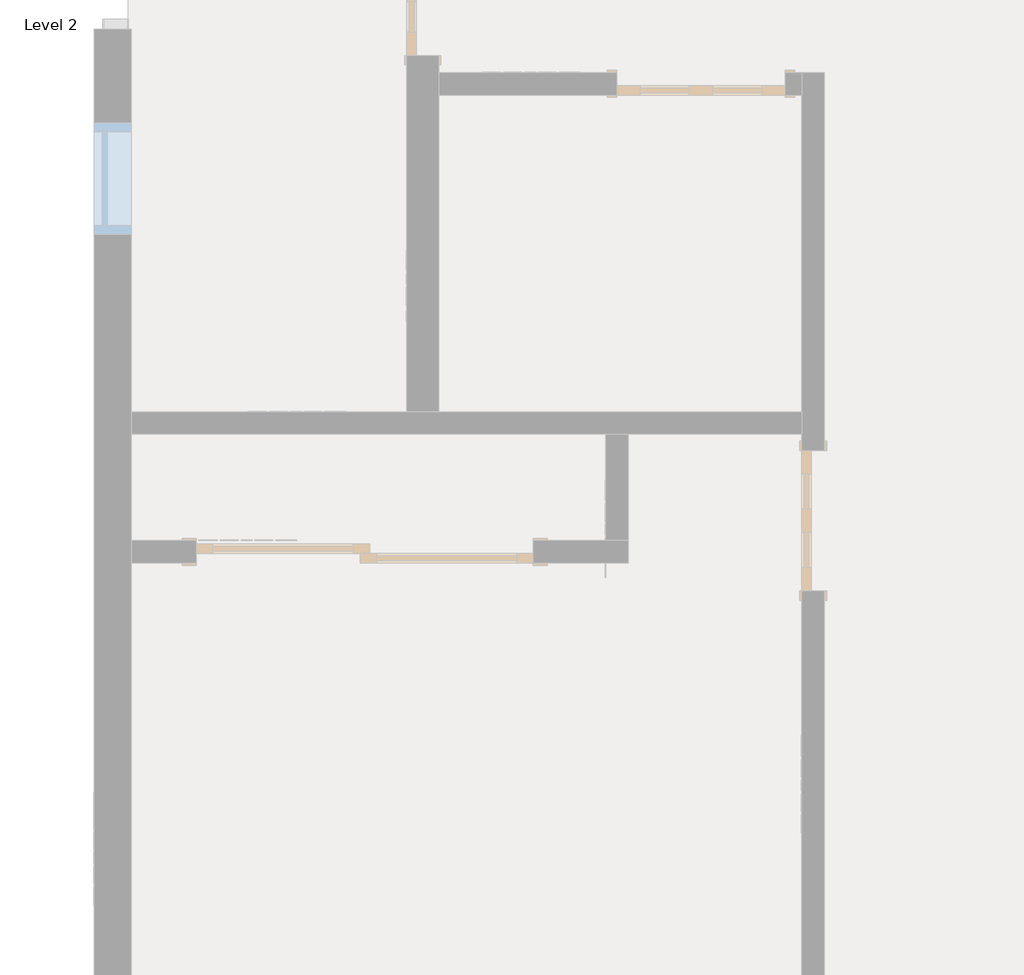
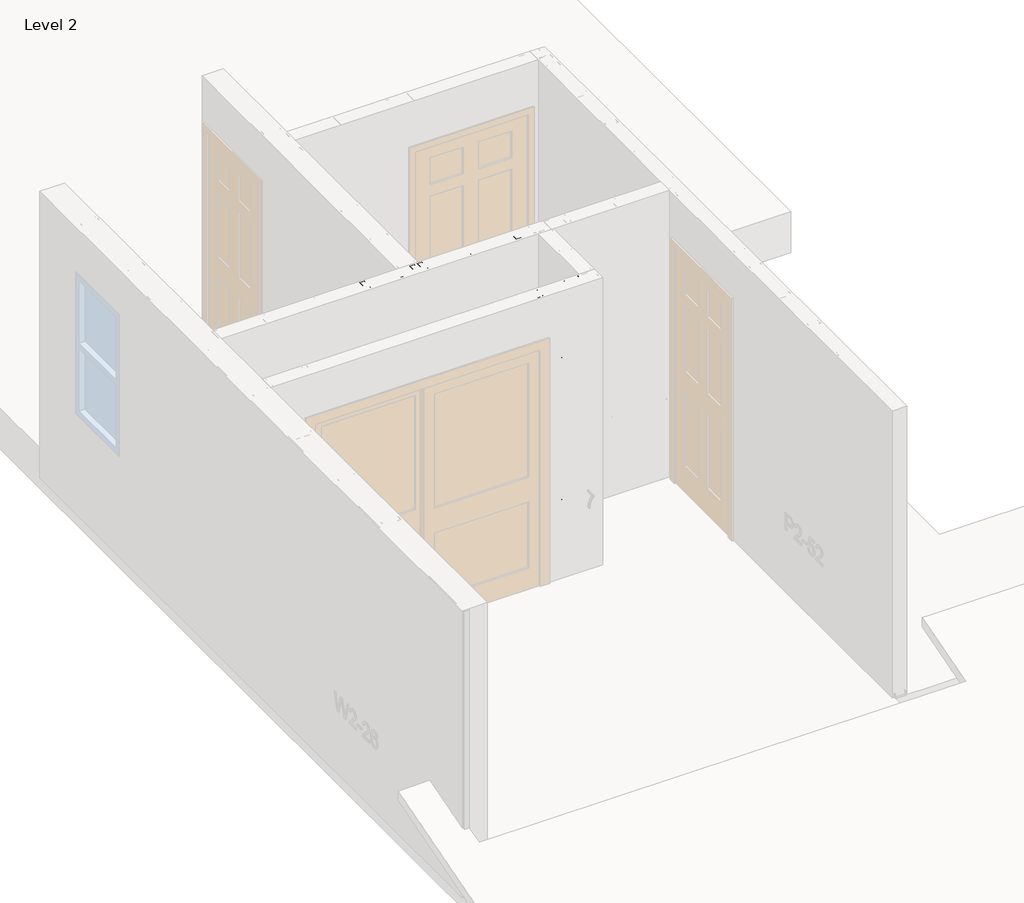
# One storey, part 9 of 46: 9 columns, 1 beam.
"""IFC4 building model written with IfcOpenShell, lengths in millimetres."""

from ifc_helpers import new_model, si_unit, point, frame, origin, place, context, project, spatial, circle_curve, ellipse_curve, trimmed, transform, mapped, element, save
from ifc_brep_helpers import plane_surface, extruded_surface, advanced_brep
from components import beam_350nf150_33_06793d65, column_350nf150_33_a93e9d8a

model = new_model("IFC4")

# Units and contexts
model_context = context("Model", 3, world=origin())
ifc_project = project(units=[si_unit("LENGTHUNIT", "METRE", prefix="MILLI")], contexts=[model_context])

# Site, building, storey
site = spatial("IfcSite", under=ifc_project)
building = spatial("IfcBuilding", under=site)
storey = spatial("IfcBuildingStorey", under=building, Name="Level 2", Elevation=3060.7)

# Beam
placement = place(None, origin())
beam_350nf150_33_shape = beam_350nf150_33_06793d65(model_context)
element("IfcBeam", 1, ObjectType="BIMSF-SSMA-S : 350NF150-33", at=placement, inside=storey, context=model_context, shape_type="MappedRepresentation", body=[
    mapped(beam_350nf150_33_shape, transform((-12722.3538349, 5070.602221, 3076.575), x_axis=(1.0000000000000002, 0.0, 0.0), y_axis=(0.0, 0.0, -1.0000000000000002), z_axis=(0.0, 1.0000000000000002, 0.0))),
])

# Columns
element("IfcColumn", 2, ObjectType="BIMSF-SSMA-S-Column : 350NF150-33", at=placement, inside=storey, context=model_context, shape_type="AdvancedBrep", body=[
    advanced_brep(
    [(-12517.5663349, 5115.052221, 3061.5929687), (-12517.5663349, 5026.152221, 3061.5929687), (-12555.6663349, 5026.152221, 3061.5929687), (-12555.6663349, 5031.8097367, 3061.5929687), (-12554.7840191, 5031.8097367, 3061.5929687), (-12554.7840191, 5027.0345367, 3061.5929687), (-12518.4486507, 5027.0345367, 3061.5929687), (-12518.4486507, 5114.1699052, 3061.5929687), (-12554.7840191, 5114.1699052, 3061.5929687), (-12554.7840191, 5109.3947052, 3061.5929687), (-12555.6663349, 5109.3947052, 3061.5929687), (-12555.6663349, 5115.052221, 3061.5929687), (-12517.5663349, 5115.052221, 5523.6070313), (-12517.5663349, 5026.152221, 5523.6070313), (-12517.5663349, 5057.902221, 3671.1929687), (-12517.5663349, 5083.302221, 3671.1929687), (-12517.5663349, 5057.902221, 4890.3929688), (-12517.5663349, 5083.302221, 4890.3929688), (-12555.6663349, 5026.152221, 5523.6070313), (-12555.6663349, 5031.8097367, 5523.6070313), (-12554.7840191, 5031.8097367, 5523.6070313), (-12554.7840191, 5027.0345367, 5523.6070313), (-12518.4486507, 5027.0345367, 5523.6070313), (-12518.4486507, 5114.1699052, 5523.6070313), (-12518.4486507, 5083.302221, 3671.1929687), (-12518.4486507, 5057.902221, 3671.1929687), (-12518.4486507, 5083.302221, 4890.3929688), (-12518.4486507, 5057.902221, 4890.3929688), (-12554.7840191, 5114.1699052, 5523.6070313), (-12554.7840191, 5109.3947052, 5523.6070313), (-12555.6663349, 5109.3947052, 5523.6070313), (-12555.6663349, 5115.052221, 5523.6070313)],
    [
        (0, 1),
        (1, 2),
        (2, 3),
        (3, 4),
        (4, 5),
        (5, 6),
        (6, 7),
        (7, 8),
        (8, 9),
        (9, 10),
        (10, 11),
        (11, 0),
        (0, 12),
        (12, 13),
        (13, 1),
        (14, 15, circle_curve(frame((-12517.5663349, 5070.602221, 3671.1929687), z_axis=(-1.0, 0.0, 0.0), x_axis=(0.0, -1.0, 0.0)), 12.7)),
        (15, 14, circle_curve(frame((-12517.5663349, 5070.602221, 3671.1929687), z_axis=(-1.0, 0.0, 0.0), x_axis=(0.0, -1.0, 0.0)), 12.7)),
        (16, 17, circle_curve(frame((-12517.5663349, 5070.602221, 4890.3929687), z_axis=(-1.0, 0.0, 0.0), x_axis=(0.0, -1.0, 0.0)), 12.7)),
        (17, 16, circle_curve(frame((-12517.5663349, 5070.602221, 4890.3929687), z_axis=(-1.0, 0.0, 0.0), x_axis=(0.0, -1.0, 0.0)), 12.7)),
        (13, 18),
        (18, 2),
        (18, 19),
        (19, 3),
        (19, 20),
        (20, 4),
        (20, 21),
        (21, 5),
        (21, 22),
        (22, 6),
        (22, 23),
        (23, 7),
        (24, 25, circle_curve(frame((-12518.4486507, 5070.602221, 3671.1929688), z_axis=(1.0, 0.0, 0.0), x_axis=(0.0, -1.0, 0.0)), 12.7)),
        (25, 24, circle_curve(frame((-12518.4486507, 5070.602221, 3671.1929688), z_axis=(1.0, 0.0, 0.0), x_axis=(0.0, -1.0, 0.0)), 12.7)),
        (26, 27, circle_curve(frame((-12518.4486507, 5070.602221, 4890.3929687), z_axis=(1.0, 0.0, 0.0), x_axis=(0.0, -1.0, 0.0)), 12.7)),
        (27, 26, circle_curve(frame((-12518.4486507, 5070.602221, 4890.3929687), z_axis=(1.0, 0.0, 0.0), x_axis=(0.0, -1.0, 0.0)), 12.7)),
        (23, 28),
        (28, 8),
        (28, 29),
        (29, 9),
        (29, 30),
        (30, 10),
        (30, 31),
        (31, 11),
        (31, 12),
        (24, 15),
        (14, 25),
        (26, 17),
        (16, 27),
    ],
    [
        plane_surface(frame((-12517.5663349, 5115.052221, 3061.5929687), z_axis=(0.0, 0.0, -1.0), x_axis=(1.0, 0.0, 0.0))),
        plane_surface(frame((-12517.5663349, 5026.152221, 5523.6070313), z_axis=(1.0, 0.0, 0.0), x_axis=(0.0, 0.0, -1.0))),
        plane_surface(frame((-12555.6663349, 5026.152221, 5523.6070313), z_axis=(0.0, -1.0, 0.0), x_axis=(0.0, 0.0, -1.0))),
        plane_surface(frame((-12555.6663349, 5031.8097367, 5523.6070313), z_axis=(-1.0, 0.0, 0.0), x_axis=(0.0, 0.0, -1.0))),
        plane_surface(frame((-12554.7840191, 5031.8097367, 5523.6070313), z_axis=(0.0, 1.0, 0.0), x_axis=(0.0, 0.0, -1.0))),
        plane_surface(frame((-12554.7840191, 5027.0345367, 5523.6070313), z_axis=(1.0, 0.0, 0.0), x_axis=(0.0, 0.0, -1.0))),
        plane_surface(frame((-12518.4486507, 5027.0345367, 5523.6070313), z_axis=(0.0, 1.0, 0.0), x_axis=(0.0, 0.0, -1.0))),
        plane_surface(frame((-12518.4486507, 5114.1699052, 5523.6070313), z_axis=(-1.0, 0.0, 0.0), x_axis=(0.0, 0.0, -1.0))),
        plane_surface(frame((-12554.7840191, 5114.1699052, 5523.6070313), z_axis=(0.0, -1.0, 0.0), x_axis=(0.0, 0.0, -1.0))),
        plane_surface(frame((-12554.7840191, 5109.3947052, 5523.6070313), z_axis=(1.0, 0.0, 0.0), x_axis=(0.0, 0.0, -1.0))),
        plane_surface(frame((-12555.6663349, 5109.3947052, 5523.6070313), z_axis=(0.0, -1.0, 0.0), x_axis=(0.0, 0.0, -1.0))),
        plane_surface(frame((-12555.6663349, 5115.052221, 5523.6070313), z_axis=(-1.0, 0.0, 0.0), x_axis=(0.0, 0.0, -1.0))),
        plane_surface(frame((-12517.5663349, 5115.052221, 5523.6070313), z_axis=(0.0, 1.0, 0.0), x_axis=(0.0, 0.0, -1.0))),
        plane_surface(frame((-12517.5663349, 5115.052221, 5523.6070313), z_axis=(0.0, 0.0, 1.0), x_axis=(-1.0, 0.0, 0.0))),
        extruded_surface(trimmed(ellipse_curve(frame((-14998.6303974, 5070.602221, 3671.1929688), z_axis=(1.0, 0.0, 0.0), x_axis=(0.0, -1.0, 0.0)), 12.7, 12.7), [point((-14998.6303974, 5083.302221, 3671.1929688))], [point((-14998.6303974, 5057.902221, 3671.1929688))], True, "CARTESIAN"), (-4924.028125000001, 0.0, 0.0), 4924.028125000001),
        extruded_surface(trimmed(ellipse_curve(frame((-14998.6303974, 5070.602221, 3671.1929688), z_axis=(1.0, 0.0, 0.0), x_axis=(0.0, -1.0, 0.0)), 12.7, 12.7), [point((-14998.6303974, 5057.902221, 3671.1929688))], [point((-14998.6303974, 5083.302221, 3671.1929688))], True, "CARTESIAN"), (-4924.028125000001, 0.0, 0.0), 4924.028125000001),
        extruded_surface(trimmed(ellipse_curve(frame((-14998.6303974, 5070.602221, 4890.3929687), z_axis=(1.0, 0.0, 0.0), x_axis=(0.0, -1.0, 0.0)), 12.7, 12.7), [point((-14998.6303974, 5083.302221, 4890.3929687))], [point((-14998.6303974, 5057.902221, 4890.3929687))], True, "CARTESIAN"), (-4924.028125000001, 0.0, 0.0), 4924.028125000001),
        extruded_surface(trimmed(ellipse_curve(frame((-14998.6303974, 5070.602221, 4890.3929687), z_axis=(1.0, 0.0, 0.0), x_axis=(0.0, -1.0, 0.0)), 12.7, 12.7), [point((-14998.6303974, 5057.902221, 4890.3929687))], [point((-14998.6303974, 5083.302221, 4890.3929687))], True, "CARTESIAN"), (-4924.028125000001, 0.0, 0.0), 4924.028125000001),
    ],
    [
        (0, [[1, 2, 3, 4, 5, 6, 7, 8, 9, 10, 11, 12]]),
        (1, [[-1, 13, 14, 15], [16, 17], [18, 19]]),
        (2, [[-2, -15, 20, 21]]),
        (3, [[-3, -21, 22, 23]]),
        (4, [[-4, -23, 24, 25]]),
        (5, [[-5, -25, 26, 27]]),
        (6, [[-6, -27, 28, 29]]),
        (7, [[-7, -29, 30, 31], [32, 33], [34, 35]]),
        (8, [[-8, -31, 36, 37]]),
        (9, [[-9, -37, 38, 39]]),
        (10, [[-10, -39, 40, 41]]),
        (11, [[-11, -41, 42, 43]]),
        (12, [[-12, -43, 44, -13]]),
        (13, [[-14, -44, -42, -40, -38, -36, -30, -28, -26, -24, -22, -20]]),
        (14, [[45, -16, 46, -32]]),
        (15, [[-45, -33, -46, -17]]),
        (16, [[47, -18, 48, -34]]),
        (17, [[-47, -35, -48, -19]]),
    ],
),
])
element("IfcColumn", 3, ObjectType="BIMSF-SSMA-S-Column : 350NF150-33", at=placement, inside=storey, context=model_context, shape_type="AdvancedBrep", body=[
    advanced_brep(
    [(-12704.8913349, 5026.152221, 3061.5929687), (-12704.8913349, 5115.052221, 3061.5929687), (-12666.7913349, 5115.052221, 3061.5929687), (-12666.7913349, 5109.3947052, 3061.5929687), (-12667.6736507, 5109.3947052, 3061.5929687), (-12667.6736507, 5114.1699052, 3061.5929687), (-12704.0090191, 5114.1699052, 3061.5929687), (-12704.0090191, 5027.0345367, 3061.5929687), (-12667.6736507, 5027.0345367, 3061.5929687), (-12667.6736507, 5031.8097367, 3061.5929687), (-12666.7913349, 5031.8097367, 3061.5929687), (-12666.7913349, 5026.152221, 3061.5929687), (-12704.8913349, 5026.152221, 5523.6070313), (-12704.8913349, 5115.052221, 5523.6070313), (-12704.8913349, 5083.302221, 3671.1929688), (-12704.8913349, 5057.902221, 3671.1929688), (-12704.8913349, 5083.302221, 4890.3929687), (-12704.8913349, 5057.902221, 4890.3929687), (-12666.7913349, 5115.052221, 5523.6070313), (-12666.7913349, 5109.3947052, 5523.6070313), (-12667.6736507, 5109.3947052, 5523.6070313), (-12667.6736507, 5114.1699052, 5523.6070313), (-12704.0090191, 5114.1699052, 5523.6070313), (-12704.0090191, 5027.0345367, 5523.6070313), (-12704.0090191, 5057.902221, 3671.1929688), (-12704.0090191, 5083.302221, 3671.1929688), (-12704.0090191, 5057.902221, 4890.3929687), (-12704.0090191, 5083.302221, 4890.3929687), (-12667.6736507, 5027.0345367, 5523.6070313), (-12667.6736507, 5031.8097367, 5523.6070313), (-12666.7913349, 5031.8097367, 5523.6070313), (-12666.7913349, 5026.152221, 5523.6070313)],
    [
        (0, 1),
        (1, 2),
        (2, 3),
        (3, 4),
        (4, 5),
        (5, 6),
        (6, 7),
        (7, 8),
        (8, 9),
        (9, 10),
        (10, 11),
        (11, 0),
        (0, 12),
        (12, 13),
        (13, 1),
        (14, 15, circle_curve(frame((-12704.8913349, 5070.602221, 3671.1929687), z_axis=(1.0, 0.0, 0.0), x_axis=(0.0, 1.0, 0.0)), 12.7)),
        (15, 14, circle_curve(frame((-12704.8913349, 5070.602221, 3671.1929687), z_axis=(1.0, 0.0, 0.0), x_axis=(0.0, 1.0, 0.0)), 12.7)),
        (16, 17, circle_curve(frame((-12704.8913349, 5070.602221, 4890.3929687), z_axis=(1.0, 0.0, 0.0), x_axis=(0.0, 1.0, 0.0)), 12.7)),
        (17, 16, circle_curve(frame((-12704.8913349, 5070.602221, 4890.3929687), z_axis=(1.0, 0.0, 0.0), x_axis=(0.0, 1.0, 0.0)), 12.7)),
        (13, 18),
        (18, 2),
        (18, 19),
        (19, 3),
        (19, 20),
        (20, 4),
        (20, 21),
        (21, 5),
        (21, 22),
        (22, 6),
        (22, 23),
        (23, 7),
        (24, 25, circle_curve(frame((-12704.0090191, 5070.602221, 3671.1929688), z_axis=(-1.0, 0.0, 0.0), x_axis=(0.0, 1.0, 0.0)), 12.7)),
        (25, 24, circle_curve(frame((-12704.0090191, 5070.602221, 3671.1929688), z_axis=(-1.0, 0.0, 0.0), x_axis=(0.0, 1.0, 0.0)), 12.7)),
        (26, 27, circle_curve(frame((-12704.0090191, 5070.602221, 4890.3929687), z_axis=(-1.0, 0.0, 0.0), x_axis=(0.0, 1.0, 0.0)), 12.7)),
        (27, 26, circle_curve(frame((-12704.0090191, 5070.602221, 4890.3929687), z_axis=(-1.0, 0.0, 0.0), x_axis=(0.0, 1.0, 0.0)), 12.7)),
        (23, 28),
        (28, 8),
        (28, 29),
        (29, 9),
        (29, 30),
        (30, 10),
        (30, 31),
        (31, 11),
        (31, 12),
        (24, 15),
        (14, 25),
        (26, 17),
        (16, 27),
    ],
    [
        plane_surface(frame((-12704.8913349, 5026.152221, 3061.5929687), z_axis=(0.0, 0.0, -1.0), x_axis=(-1.0, 0.0, 0.0))),
        plane_surface(frame((-12704.8913349, 5115.052221, 5523.6070313), z_axis=(-1.0, 0.0, 0.0), x_axis=(0.0, 0.0, -1.0))),
        plane_surface(frame((-12666.7913349, 5115.052221, 5523.6070313), z_axis=(0.0, 1.0, 0.0), x_axis=(0.0, 0.0, -1.0))),
        plane_surface(frame((-12666.7913349, 5109.3947052, 5523.6070313), z_axis=(1.0, 0.0, 0.0), x_axis=(0.0, 0.0, -1.0))),
        plane_surface(frame((-12667.6736507, 5109.3947052, 5523.6070313), z_axis=(0.0, -1.0, 0.0), x_axis=(0.0, 0.0, -1.0))),
        plane_surface(frame((-12667.6736507, 5114.1699052, 5523.6070313), z_axis=(-1.0, 0.0, 0.0), x_axis=(0.0, 0.0, -1.0))),
        plane_surface(frame((-12704.0090191, 5114.1699052, 5523.6070313), z_axis=(0.0, -1.0, 0.0), x_axis=(0.0, 0.0, -1.0))),
        plane_surface(frame((-12704.0090191, 5027.0345367, 5523.6070313), z_axis=(1.0, 0.0, 0.0), x_axis=(0.0, 0.0, -1.0))),
        plane_surface(frame((-12667.6736507, 5027.0345367, 5523.6070313), z_axis=(0.0, 1.0, 0.0), x_axis=(0.0, 0.0, -1.0))),
        plane_surface(frame((-12667.6736507, 5031.8097367, 5523.6070313), z_axis=(-1.0, 0.0, 0.0), x_axis=(0.0, 0.0, -1.0))),
        plane_surface(frame((-12666.7913349, 5031.8097367, 5523.6070313), z_axis=(0.0, 1.0, 0.0), x_axis=(0.0, 0.0, -1.0))),
        plane_surface(frame((-12666.7913349, 5026.152221, 5523.6070313), z_axis=(1.0, 0.0, 0.0), x_axis=(0.0, 0.0, -1.0))),
        plane_surface(frame((-12704.8913349, 5026.152221, 5523.6070313), z_axis=(0.0, -1.0, 0.0), x_axis=(0.0, 0.0, -1.0))),
        plane_surface(frame((-12704.8913349, 5026.152221, 5523.6070313), z_axis=(0.0, 0.0, 1.0), x_axis=(1.0, 0.0, 0.0))),
        extruded_surface(trimmed(ellipse_curve(frame((-10223.8272724, 5070.602221, 3671.1929688), z_axis=(-1.0, 0.0, 0.0), x_axis=(0.0, 1.0, 0.0)), 12.7, 12.7), [point((-10223.8272724, 5057.902221, 3671.1929688))], [point((-10223.8272724, 5083.302221, 3671.1929688))], True, "CARTESIAN"), (4924.028125, 0.0, 0.0), 4924.028125),
        extruded_surface(trimmed(ellipse_curve(frame((-10223.8272724, 5070.602221, 3671.1929688), z_axis=(-1.0, 0.0, 0.0), x_axis=(0.0, 1.0, 0.0)), 12.7, 12.7), [point((-10223.8272724, 5083.302221, 3671.1929688))], [point((-10223.8272724, 5057.902221, 3671.1929688))], True, "CARTESIAN"), (4924.028125, 0.0, 0.0), 4924.028125),
        extruded_surface(trimmed(ellipse_curve(frame((-10223.8272724, 5070.602221, 4890.3929687), z_axis=(-1.0, 0.0, 0.0), x_axis=(0.0, 1.0, 0.0)), 12.7, 12.7), [point((-10223.8272724, 5057.902221, 4890.3929687))], [point((-10223.8272724, 5083.302221, 4890.3929687))], True, "CARTESIAN"), (4924.028125, 0.0, 0.0), 4924.028125),
        extruded_surface(trimmed(ellipse_curve(frame((-10223.8272724, 5070.602221, 4890.3929687), z_axis=(-1.0, 0.0, 0.0), x_axis=(0.0, 1.0, 0.0)), 12.7, 12.7), [point((-10223.8272724, 5083.302221, 4890.3929687))], [point((-10223.8272724, 5057.902221, 4890.3929687))], True, "CARTESIAN"), (4924.028125, 0.0, 0.0), 4924.028125),
    ],
    [
        (0, [[1, 2, 3, 4, 5, 6, 7, 8, 9, 10, 11, 12]]),
        (1, [[-1, 13, 14, 15], [16, 17], [18, 19]]),
        (2, [[-2, -15, 20, 21]]),
        (3, [[-3, -21, 22, 23]]),
        (4, [[-4, -23, 24, 25]]),
        (5, [[-5, -25, 26, 27]]),
        (6, [[-6, -27, 28, 29]]),
        (7, [[-7, -29, 30, 31], [32, 33], [34, 35]]),
        (8, [[-8, -31, 36, 37]]),
        (9, [[-9, -37, 38, 39]]),
        (10, [[-10, -39, 40, 41]]),
        (11, [[-11, -41, 42, 43]]),
        (12, [[-12, -43, 44, -13]]),
        (13, [[-14, -44, -42, -40, -38, -36, -30, -28, -26, -24, -22, -20]]),
        (14, [[45, -16, 46, -32]]),
        (15, [[-45, -33, -46, -17]]),
        (16, [[47, -18, 48, -34]]),
        (17, [[-47, -35, -48, -19]]),
    ],
),
])
element("IfcColumn", 4, ObjectType="BIMSF-SSMA-S-Column : 350NF150-33", at=placement, inside=storey, context=model_context, shape_type="AdvancedBrep", body=[
    advanced_brep(
    [(-13924.0913349, 5724.652221, 3061.5929687), (-13924.0913349, 5813.552221, 3061.5929687), (-13885.9913349, 5813.552221, 3061.5929687), (-13885.9913349, 5807.8947052, 3061.5929687), (-13886.8736507, 5807.8947052, 3061.5929687), (-13886.8736507, 5812.6699052, 3061.5929687), (-13923.2090191, 5812.6699052, 3061.5929687), (-13923.2090191, 5725.5345367, 3061.5929687), (-13886.8736507, 5725.5345367, 3061.5929687), (-13886.8736507, 5730.3097367, 3061.5929687), (-13885.9913349, 5730.3097367, 3061.5929687), (-13885.9913349, 5724.652221, 3061.5929687), (-13924.0913349, 5724.652221, 5523.6070313), (-13924.0913349, 5813.552221, 5523.6070313), (-13924.0913349, 5781.802221, 3671.1929688), (-13924.0913349, 5756.402221, 3671.1929688), (-13924.0913349, 5781.802221, 4890.3929687), (-13924.0913349, 5756.402221, 4890.3929687), (-13885.9913349, 5813.552221, 5523.6070313), (-13885.9913349, 5807.8947052, 5523.6070313), (-13886.8736507, 5807.8947052, 5523.6070313), (-13886.8736507, 5812.6699052, 5523.6070313), (-13923.2090191, 5812.6699052, 5523.6070313), (-13923.2090191, 5725.5345367, 5523.6070313), (-13923.2090191, 5756.402221, 3671.1929688), (-13923.2090191, 5781.802221, 3671.1929688), (-13923.2090191, 5756.402221, 4890.3929687), (-13923.2090191, 5781.802221, 4890.3929687), (-13886.8736507, 5725.5345367, 5523.6070313), (-13886.8736507, 5730.3097367, 5523.6070313), (-13885.9913349, 5730.3097367, 5523.6070313), (-13885.9913349, 5724.652221, 5523.6070313)],
    [
        (0, 1),
        (1, 2),
        (2, 3),
        (3, 4),
        (4, 5),
        (5, 6),
        (6, 7),
        (7, 8),
        (8, 9),
        (9, 10),
        (10, 11),
        (11, 0),
        (0, 12),
        (12, 13),
        (13, 1),
        (14, 15, circle_curve(frame((-13924.0913349, 5769.102221, 3671.1929687), z_axis=(1.0, 0.0, 0.0), x_axis=(0.0, 1.0, 0.0)), 12.7)),
        (15, 14, circle_curve(frame((-13924.0913349, 5769.102221, 3671.1929687), z_axis=(1.0, 0.0, 0.0), x_axis=(0.0, 1.0, 0.0)), 12.7)),
        (16, 17, circle_curve(frame((-13924.0913349, 5769.102221, 4890.3929687), z_axis=(1.0, 0.0, 0.0), x_axis=(0.0, 1.0, 0.0)), 12.7)),
        (17, 16, circle_curve(frame((-13924.0913349, 5769.102221, 4890.3929687), z_axis=(1.0, 0.0, 0.0), x_axis=(0.0, 1.0, 0.0)), 12.7)),
        (13, 18),
        (18, 2),
        (18, 19),
        (19, 3),
        (19, 20),
        (20, 4),
        (20, 21),
        (21, 5),
        (21, 22),
        (22, 6),
        (22, 23),
        (23, 7),
        (24, 25, circle_curve(frame((-13923.2090191, 5769.102221, 3671.1929688), z_axis=(-1.0, 0.0, 0.0), x_axis=(0.0, 1.0, 0.0)), 12.7)),
        (25, 24, circle_curve(frame((-13923.2090191, 5769.102221, 3671.1929688), z_axis=(-1.0, 0.0, 0.0), x_axis=(0.0, 1.0, 0.0)), 12.7)),
        (26, 27, circle_curve(frame((-13923.2090191, 5769.102221, 4890.3929687), z_axis=(-1.0, 0.0, 0.0), x_axis=(0.0, 1.0, 0.0)), 12.7)),
        (27, 26, circle_curve(frame((-13923.2090191, 5769.102221, 4890.3929687), z_axis=(-1.0, 0.0, 0.0), x_axis=(0.0, 1.0, 0.0)), 12.7)),
        (23, 28),
        (28, 8),
        (28, 29),
        (29, 9),
        (29, 30),
        (30, 10),
        (30, 31),
        (31, 11),
        (31, 12),
        (24, 15),
        (14, 25),
        (26, 17),
        (16, 27),
    ],
    [
        plane_surface(frame((-13924.0913349, 5724.652221, 3061.5929687), z_axis=(0.0, 0.0, -1.0), x_axis=(-1.0, 0.0, 0.0))),
        plane_surface(frame((-13924.0913349, 5813.552221, 5523.6070313), z_axis=(-1.0, 0.0, 0.0), x_axis=(0.0, 0.0, -1.0))),
        plane_surface(frame((-13885.9913349, 5813.552221, 5523.6070313), z_axis=(0.0, 1.0, 0.0), x_axis=(0.0, 0.0, -1.0))),
        plane_surface(frame((-13885.9913349, 5807.8947052, 5523.6070313), z_axis=(1.0, 0.0, 0.0), x_axis=(0.0, 0.0, -1.0))),
        plane_surface(frame((-13886.8736507, 5807.8947052, 5523.6070313), z_axis=(0.0, -1.0, 0.0), x_axis=(0.0, 0.0, -1.0))),
        plane_surface(frame((-13886.8736507, 5812.6699052, 5523.6070313), z_axis=(-1.0, 0.0, 0.0), x_axis=(0.0, 0.0, -1.0))),
        plane_surface(frame((-13923.2090191, 5812.6699052, 5523.6070313), z_axis=(0.0, -1.0, 0.0), x_axis=(0.0, 0.0, -1.0))),
        plane_surface(frame((-13923.2090191, 5725.5345367, 5523.6070313), z_axis=(1.0, 0.0, 0.0), x_axis=(0.0, 0.0, -1.0))),
        plane_surface(frame((-13886.8736507, 5725.5345367, 5523.6070313), z_axis=(0.0, 1.0, 0.0), x_axis=(0.0, 0.0, -1.0))),
        plane_surface(frame((-13886.8736507, 5730.3097367, 5523.6070313), z_axis=(-1.0, 0.0, 0.0), x_axis=(0.0, 0.0, -1.0))),
        plane_surface(frame((-13885.9913349, 5730.3097367, 5523.6070313), z_axis=(0.0, 1.0, 0.0), x_axis=(0.0, 0.0, -1.0))),
        plane_surface(frame((-13885.9913349, 5724.652221, 5523.6070313), z_axis=(1.0, 0.0, 0.0), x_axis=(0.0, 0.0, -1.0))),
        plane_surface(frame((-13924.0913349, 5724.652221, 5523.6070313), z_axis=(0.0, -1.0, 0.0), x_axis=(0.0, 0.0, -1.0))),
        plane_surface(frame((-13924.0913349, 5724.652221, 5523.6070313), z_axis=(0.0, 0.0, 1.0), x_axis=(1.0, 0.0, 0.0))),
        extruded_surface(trimmed(ellipse_curve(frame((-11443.0272724, 5769.102221, 3671.1929688), z_axis=(-1.0, 0.0, 0.0), x_axis=(0.0, 1.0, 0.0)), 12.7, 12.7), [point((-11443.0272724, 5756.402221, 3671.1929688))], [point((-11443.0272724, 5781.802221, 3671.1929688))], True, "CARTESIAN"), (4924.028125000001, 0.0, 0.0), 4924.028125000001),
        extruded_surface(trimmed(ellipse_curve(frame((-11443.0272724, 5769.102221, 3671.1929688), z_axis=(-1.0, 0.0, 0.0), x_axis=(0.0, 1.0, 0.0)), 12.7, 12.7), [point((-11443.0272724, 5781.802221, 3671.1929688))], [point((-11443.0272724, 5756.402221, 3671.1929688))], True, "CARTESIAN"), (4924.028125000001, 0.0, 0.0), 4924.028125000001),
        extruded_surface(trimmed(ellipse_curve(frame((-11443.0272724, 5769.102221, 4890.3929687), z_axis=(-1.0, 0.0, 0.0), x_axis=(0.0, 1.0, 0.0)), 12.7, 12.7), [point((-11443.0272724, 5756.402221, 4890.3929687))], [point((-11443.0272724, 5781.802221, 4890.3929687))], True, "CARTESIAN"), (4924.028125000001, 0.0, 0.0), 4924.028125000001),
        extruded_surface(trimmed(ellipse_curve(frame((-11443.0272724, 5769.102221, 4890.3929687), z_axis=(-1.0, 0.0, 0.0), x_axis=(0.0, 1.0, 0.0)), 12.7, 12.7), [point((-11443.0272724, 5781.802221, 4890.3929687))], [point((-11443.0272724, 5756.402221, 4890.3929687))], True, "CARTESIAN"), (4924.028125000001, 0.0, 0.0), 4924.028125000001),
    ],
    [
        (0, [[1, 2, 3, 4, 5, 6, 7, 8, 9, 10, 11, 12]]),
        (1, [[-1, 13, 14, 15], [16, 17], [18, 19]]),
        (2, [[-2, -15, 20, 21]]),
        (3, [[-3, -21, 22, 23]]),
        (4, [[-4, -23, 24, 25]]),
        (5, [[-5, -25, 26, 27]]),
        (6, [[-6, -27, 28, 29]]),
        (7, [[-7, -29, 30, 31], [32, 33], [34, 35]]),
        (8, [[-8, -31, 36, 37]]),
        (9, [[-9, -37, 38, 39]]),
        (10, [[-10, -39, 40, 41]]),
        (11, [[-11, -41, 42, 43]]),
        (12, [[-12, -43, 44, -13]]),
        (13, [[-14, -44, -42, -40, -38, -36, -30, -28, -26, -24, -22, -20]]),
        (14, [[45, -16, 46, -32]]),
        (15, [[-45, -33, -46, -17]]),
        (16, [[47, -18, 48, -34]]),
        (17, [[-47, -35, -48, -19]]),
    ],
),
])
element("IfcColumn", 5, ObjectType="BIMSF-SSMA-S-Column : 350NF150-33", at=placement, inside=storey, context=model_context, shape_type="AdvancedBrep", body=[
    advanced_brep(
    [(-13517.6913349, 5724.652221, 3061.5929687), (-13517.6913349, 5813.552221, 3061.5929687), (-13479.5913349, 5813.552221, 3061.5929687), (-13479.5913349, 5807.8947052, 3061.5929687), (-13480.4736507, 5807.8947052, 3061.5929687), (-13480.4736507, 5812.6699052, 3061.5929687), (-13516.8090191, 5812.6699052, 3061.5929687), (-13516.8090191, 5725.5345367, 3061.5929687), (-13480.4736507, 5725.5345367, 3061.5929687), (-13480.4736507, 5730.3097367, 3061.5929687), (-13479.5913349, 5730.3097367, 3061.5929687), (-13479.5913349, 5724.652221, 3061.5929687), (-13517.6913349, 5724.652221, 5523.6070313), (-13517.6913349, 5813.552221, 5523.6070313), (-13517.6913349, 5781.802221, 3671.1929688), (-13517.6913349, 5756.402221, 3671.1929688), (-13517.6913349, 5781.802221, 4890.3929687), (-13517.6913349, 5756.402221, 4890.3929687), (-13479.5913349, 5813.552221, 5523.6070313), (-13479.5913349, 5807.8947052, 5523.6070313), (-13480.4736507, 5807.8947052, 5523.6070313), (-13480.4736507, 5812.6699052, 5523.6070313), (-13516.8090191, 5812.6699052, 5523.6070313), (-13516.8090191, 5725.5345367, 5523.6070313), (-13516.8090191, 5756.402221, 3671.1929688), (-13516.8090191, 5781.802221, 3671.1929688), (-13516.8090191, 5756.402221, 4890.3929687), (-13516.8090191, 5781.802221, 4890.3929687), (-13480.4736507, 5725.5345367, 5523.6070313), (-13480.4736507, 5730.3097367, 5523.6070313), (-13479.5913349, 5730.3097367, 5523.6070313), (-13479.5913349, 5724.652221, 5523.6070313)],
    [
        (0, 1),
        (1, 2),
        (2, 3),
        (3, 4),
        (4, 5),
        (5, 6),
        (6, 7),
        (7, 8),
        (8, 9),
        (9, 10),
        (10, 11),
        (11, 0),
        (0, 12),
        (12, 13),
        (13, 1),
        (14, 15, circle_curve(frame((-13517.6913349, 5769.102221, 3671.1929688), z_axis=(1.0, 0.0, 0.0), x_axis=(0.0, 1.0, 0.0)), 12.7)),
        (15, 14, circle_curve(frame((-13517.6913349, 5769.102221, 3671.1929688), z_axis=(1.0, 0.0, 0.0), x_axis=(0.0, 1.0, 0.0)), 12.7)),
        (16, 17, circle_curve(frame((-13517.6913349, 5769.102221, 4890.3929687), z_axis=(1.0, 0.0, 0.0), x_axis=(0.0, 1.0, 0.0)), 12.7)),
        (17, 16, circle_curve(frame((-13517.6913349, 5769.102221, 4890.3929687), z_axis=(1.0, 0.0, 0.0), x_axis=(0.0, 1.0, 0.0)), 12.7)),
        (13, 18),
        (18, 2),
        (18, 19),
        (19, 3),
        (19, 20),
        (20, 4),
        (20, 21),
        (21, 5),
        (21, 22),
        (22, 6),
        (22, 23),
        (23, 7),
        (24, 25, circle_curve(frame((-13516.8090191, 5769.102221, 3671.1929688), z_axis=(-1.0, 0.0, 0.0), x_axis=(0.0, 1.0, 0.0)), 12.7)),
        (25, 24, circle_curve(frame((-13516.8090191, 5769.102221, 3671.1929688), z_axis=(-1.0, 0.0, 0.0), x_axis=(0.0, 1.0, 0.0)), 12.7)),
        (26, 27, circle_curve(frame((-13516.8090191, 5769.102221, 4890.3929687), z_axis=(-1.0, 0.0, 0.0), x_axis=(0.0, 1.0, 0.0)), 12.7)),
        (27, 26, circle_curve(frame((-13516.8090191, 5769.102221, 4890.3929687), z_axis=(-1.0, 0.0, 0.0), x_axis=(0.0, 1.0, 0.0)), 12.7)),
        (23, 28),
        (28, 8),
        (28, 29),
        (29, 9),
        (29, 30),
        (30, 10),
        (30, 31),
        (31, 11),
        (31, 12),
        (24, 15),
        (14, 25),
        (26, 17),
        (16, 27),
    ],
    [
        plane_surface(frame((-13517.6913349, 5724.652221, 3061.5929687), z_axis=(0.0, 0.0, -1.0), x_axis=(-1.0, 0.0, 0.0))),
        plane_surface(frame((-13517.6913349, 5813.552221, 5523.6070313), z_axis=(-1.0, 0.0, 0.0), x_axis=(0.0, 0.0, -1.0))),
        plane_surface(frame((-13479.5913349, 5813.552221, 5523.6070313), z_axis=(0.0, 1.0, 0.0), x_axis=(0.0, 0.0, -1.0))),
        plane_surface(frame((-13479.5913349, 5807.8947052, 5523.6070313), z_axis=(1.0, 0.0, 0.0), x_axis=(0.0, 0.0, -1.0))),
        plane_surface(frame((-13480.4736507, 5807.8947052, 5523.6070313), z_axis=(0.0, -1.0, 0.0), x_axis=(0.0, 0.0, -1.0))),
        plane_surface(frame((-13480.4736507, 5812.6699052, 5523.6070313), z_axis=(-1.0, 0.0, 0.0), x_axis=(0.0, 0.0, -1.0))),
        plane_surface(frame((-13516.8090191, 5812.6699052, 5523.6070313), z_axis=(0.0, -1.0, 0.0), x_axis=(0.0, 0.0, -1.0))),
        plane_surface(frame((-13516.8090191, 5725.5345367, 5523.6070313), z_axis=(1.0, 0.0, 0.0), x_axis=(0.0, 0.0, -1.0))),
        plane_surface(frame((-13480.4736507, 5725.5345367, 5523.6070313), z_axis=(0.0, 1.0, 0.0), x_axis=(0.0, 0.0, -1.0))),
        plane_surface(frame((-13480.4736507, 5730.3097367, 5523.6070313), z_axis=(-1.0, 0.0, 0.0), x_axis=(0.0, 0.0, -1.0))),
        plane_surface(frame((-13479.5913349, 5730.3097367, 5523.6070313), z_axis=(0.0, 1.0, 0.0), x_axis=(0.0, 0.0, -1.0))),
        plane_surface(frame((-13479.5913349, 5724.652221, 5523.6070313), z_axis=(1.0, 0.0, 0.0), x_axis=(0.0, 0.0, -1.0))),
        plane_surface(frame((-13517.6913349, 5724.652221, 5523.6070313), z_axis=(0.0, -1.0, 0.0), x_axis=(0.0, 0.0, -1.0))),
        plane_surface(frame((-13517.6913349, 5724.652221, 5523.6070313), z_axis=(0.0, 0.0, 1.0), x_axis=(1.0, 0.0, 0.0))),
        extruded_surface(trimmed(ellipse_curve(frame((-11036.6272724, 5769.102221, 3671.1929688), z_axis=(-1.0, 0.0, 0.0), x_axis=(0.0, 1.0, 0.0)), 12.7, 12.7), [point((-11036.6272724, 5756.402221, 3671.1929688))], [point((-11036.6272724, 5781.802221, 3671.1929688))], True, "CARTESIAN"), (4924.028124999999, 0.0, 0.0), 4924.028124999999),
        extruded_surface(trimmed(ellipse_curve(frame((-11036.6272724, 5769.102221, 3671.1929688), z_axis=(-1.0, 0.0, 0.0), x_axis=(0.0, 1.0, 0.0)), 12.7, 12.7), [point((-11036.6272724, 5781.802221, 3671.1929688))], [point((-11036.6272724, 5756.402221, 3671.1929688))], True, "CARTESIAN"), (4924.028124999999, 0.0, 0.0), 4924.028124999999),
        extruded_surface(trimmed(ellipse_curve(frame((-11036.6272724, 5769.102221, 4890.3929687), z_axis=(-1.0, 0.0, 0.0), x_axis=(0.0, 1.0, 0.0)), 12.7, 12.7), [point((-11036.6272724, 5756.402221, 4890.3929687))], [point((-11036.6272724, 5781.802221, 4890.3929687))], True, "CARTESIAN"), (4924.028124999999, 0.0, 0.0), 4924.028124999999),
        extruded_surface(trimmed(ellipse_curve(frame((-11036.6272724, 5769.102221, 4890.3929687), z_axis=(-1.0, 0.0, 0.0), x_axis=(0.0, 1.0, 0.0)), 12.7, 12.7), [point((-11036.6272724, 5781.802221, 4890.3929687))], [point((-11036.6272724, 5756.402221, 4890.3929687))], True, "CARTESIAN"), (4924.028124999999, 0.0, 0.0), 4924.028124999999),
    ],
    [
        (0, [[1, 2, 3, 4, 5, 6, 7, 8, 9, 10, 11, 12]]),
        (1, [[-1, 13, 14, 15], [16, 17], [18, 19]]),
        (2, [[-2, -15, 20, 21]]),
        (3, [[-3, -21, 22, 23]]),
        (4, [[-4, -23, 24, 25]]),
        (5, [[-5, -25, 26, 27]]),
        (6, [[-6, -27, 28, 29]]),
        (7, [[-7, -29, 30, 31], [32, 33], [34, 35]]),
        (8, [[-8, -31, 36, 37]]),
        (9, [[-9, -37, 38, 39]]),
        (10, [[-10, -39, 40, 41]]),
        (11, [[-11, -41, 42, 43]]),
        (12, [[-12, -43, 44, -13]]),
        (13, [[-14, -44, -42, -40, -38, -36, -30, -28, -26, -24, -22, -20]]),
        (14, [[45, -16, 46, -32]]),
        (15, [[-45, -33, -46, -17]]),
        (16, [[47, -18, 48, -34]]),
        (17, [[-47, -35, -48, -19]]),
    ],
),
])
element("IfcColumn", 6, ObjectType="BIMSF-SSMA-S-Column : 350NF150-33", at=placement, inside=storey, context=model_context, shape_type="AdvancedBrep", body=[
    advanced_brep(
    [(-13111.2913349, 5724.652221, 3061.5929687), (-13111.2913349, 5813.552221, 3061.5929687), (-13073.1913349, 5813.552221, 3061.5929687), (-13073.1913349, 5807.8947052, 3061.5929687), (-13074.0736507, 5807.8947052, 3061.5929687), (-13074.0736507, 5812.6699052, 3061.5929687), (-13110.4090191, 5812.6699052, 3061.5929687), (-13110.4090191, 5725.5345367, 3061.5929687), (-13074.0736507, 5725.5345367, 3061.5929687), (-13074.0736507, 5730.3097367, 3061.5929687), (-13073.1913349, 5730.3097367, 3061.5929687), (-13073.1913349, 5724.652221, 3061.5929687), (-13111.2913349, 5724.652221, 5523.6070313), (-13111.2913349, 5813.552221, 5523.6070313), (-13111.2913349, 5781.802221, 3671.1929688), (-13111.2913349, 5756.402221, 3671.1929688), (-13111.2913349, 5781.802221, 4890.3929687), (-13111.2913349, 5756.402221, 4890.3929687), (-13073.1913349, 5813.552221, 5523.6070313), (-13073.1913349, 5807.8947052, 5523.6070313), (-13074.0736507, 5807.8947052, 5523.6070313), (-13074.0736507, 5812.6699052, 5523.6070313), (-13110.4090191, 5812.6699052, 5523.6070313), (-13110.4090191, 5725.5345367, 5523.6070313), (-13110.4090191, 5756.402221, 3671.1929688), (-13110.4090191, 5781.802221, 3671.1929688), (-13110.4090191, 5756.402221, 4890.3929687), (-13110.4090191, 5781.802221, 4890.3929687), (-13074.0736507, 5725.5345367, 5523.6070313), (-13074.0736507, 5730.3097367, 5523.6070313), (-13073.1913349, 5730.3097367, 5523.6070313), (-13073.1913349, 5724.652221, 5523.6070313)],
    [
        (0, 1),
        (1, 2),
        (2, 3),
        (3, 4),
        (4, 5),
        (5, 6),
        (6, 7),
        (7, 8),
        (8, 9),
        (9, 10),
        (10, 11),
        (11, 0),
        (0, 12),
        (12, 13),
        (13, 1),
        (14, 15, circle_curve(frame((-13111.2913349, 5769.102221, 3671.1929688), z_axis=(1.0, 0.0, 0.0), x_axis=(0.0, 1.0, 0.0)), 12.7)),
        (15, 14, circle_curve(frame((-13111.2913349, 5769.102221, 3671.1929688), z_axis=(1.0, 0.0, 0.0), x_axis=(0.0, 1.0, 0.0)), 12.7)),
        (16, 17, circle_curve(frame((-13111.2913349, 5769.102221, 4890.3929687), z_axis=(1.0, 0.0, 0.0), x_axis=(0.0, 1.0, 0.0)), 12.7)),
        (17, 16, circle_curve(frame((-13111.2913349, 5769.102221, 4890.3929687), z_axis=(1.0, 0.0, 0.0), x_axis=(0.0, 1.0, 0.0)), 12.7)),
        (13, 18),
        (18, 2),
        (18, 19),
        (19, 3),
        (19, 20),
        (20, 4),
        (20, 21),
        (21, 5),
        (21, 22),
        (22, 6),
        (22, 23),
        (23, 7),
        (24, 25, circle_curve(frame((-13110.4090191, 5769.102221, 3671.1929688), z_axis=(-1.0, 0.0, 0.0), x_axis=(0.0, 1.0, 0.0)), 12.7)),
        (25, 24, circle_curve(frame((-13110.4090191, 5769.102221, 3671.1929688), z_axis=(-1.0, 0.0, 0.0), x_axis=(0.0, 1.0, 0.0)), 12.7)),
        (26, 27, circle_curve(frame((-13110.4090191, 5769.102221, 4890.3929687), z_axis=(-1.0, 0.0, 0.0), x_axis=(0.0, 1.0, 0.0)), 12.7)),
        (27, 26, circle_curve(frame((-13110.4090191, 5769.102221, 4890.3929687), z_axis=(-1.0, 0.0, 0.0), x_axis=(0.0, 1.0, 0.0)), 12.7)),
        (23, 28),
        (28, 8),
        (28, 29),
        (29, 9),
        (29, 30),
        (30, 10),
        (30, 31),
        (31, 11),
        (31, 12),
        (24, 15),
        (14, 25),
        (26, 17),
        (16, 27),
    ],
    [
        plane_surface(frame((-13111.2913349, 5724.652221, 3061.5929687), z_axis=(0.0, 0.0, -1.0), x_axis=(-1.0, 0.0, 0.0))),
        plane_surface(frame((-13111.2913349, 5813.552221, 5523.6070313), z_axis=(-1.0, 0.0, 0.0), x_axis=(0.0, 0.0, -1.0))),
        plane_surface(frame((-13073.1913349, 5813.552221, 5523.6070313), z_axis=(0.0, 1.0, 0.0), x_axis=(0.0, 0.0, -1.0))),
        plane_surface(frame((-13073.1913349, 5807.8947052, 5523.6070313), z_axis=(1.0, 0.0, 0.0), x_axis=(0.0, 0.0, -1.0))),
        plane_surface(frame((-13074.0736507, 5807.8947052, 5523.6070313), z_axis=(0.0, -1.0, 0.0), x_axis=(0.0, 0.0, -1.0))),
        plane_surface(frame((-13074.0736507, 5812.6699052, 5523.6070313), z_axis=(-1.0, 0.0, 0.0), x_axis=(0.0, 0.0, -1.0))),
        plane_surface(frame((-13110.4090191, 5812.6699052, 5523.6070313), z_axis=(0.0, -1.0, 0.0), x_axis=(0.0, 0.0, -1.0))),
        plane_surface(frame((-13110.4090191, 5725.5345367, 5523.6070313), z_axis=(1.0, 0.0, 0.0), x_axis=(0.0, 0.0, -1.0))),
        plane_surface(frame((-13074.0736507, 5725.5345367, 5523.6070313), z_axis=(0.0, 1.0, 0.0), x_axis=(0.0, 0.0, -1.0))),
        plane_surface(frame((-13074.0736507, 5730.3097367, 5523.6070313), z_axis=(-1.0, 0.0, 0.0), x_axis=(0.0, 0.0, -1.0))),
        plane_surface(frame((-13073.1913349, 5730.3097367, 5523.6070313), z_axis=(0.0, 1.0, 0.0), x_axis=(0.0, 0.0, -1.0))),
        plane_surface(frame((-13073.1913349, 5724.652221, 5523.6070313), z_axis=(1.0, 0.0, 0.0), x_axis=(0.0, 0.0, -1.0))),
        plane_surface(frame((-13111.2913349, 5724.652221, 5523.6070313), z_axis=(0.0, -1.0, 0.0), x_axis=(0.0, 0.0, -1.0))),
        plane_surface(frame((-13111.2913349, 5724.652221, 5523.6070313), z_axis=(0.0, 0.0, 1.0), x_axis=(1.0, 0.0, 0.0))),
        extruded_surface(trimmed(ellipse_curve(frame((-10630.2272724, 5769.102221, 3671.1929688), z_axis=(-1.0, 0.0, 0.0), x_axis=(0.0, 1.0, 0.0)), 12.7, 12.7), [point((-10630.2272724, 5756.402221, 3671.1929688))], [point((-10630.2272724, 5781.802221, 3671.1929688))], True, "CARTESIAN"), (4924.028125, 0.0, 0.0), 4924.028125),
        extruded_surface(trimmed(ellipse_curve(frame((-10630.2272724, 5769.102221, 3671.1929688), z_axis=(-1.0, 0.0, 0.0), x_axis=(0.0, 1.0, 0.0)), 12.7, 12.7), [point((-10630.2272724, 5781.802221, 3671.1929688))], [point((-10630.2272724, 5756.402221, 3671.1929688))], True, "CARTESIAN"), (4924.028125, 0.0, 0.0), 4924.028125),
        extruded_surface(trimmed(ellipse_curve(frame((-10630.2272724, 5769.102221, 4890.3929687), z_axis=(-1.0, 0.0, 0.0), x_axis=(0.0, 1.0, 0.0)), 12.7, 12.7), [point((-10630.2272724, 5756.402221, 4890.3929687))], [point((-10630.2272724, 5781.802221, 4890.3929687))], True, "CARTESIAN"), (4924.028125, 0.0, 0.0), 4924.028125),
        extruded_surface(trimmed(ellipse_curve(frame((-10630.2272724, 5769.102221, 4890.3929687), z_axis=(-1.0, 0.0, 0.0), x_axis=(0.0, 1.0, 0.0)), 12.7, 12.7), [point((-10630.2272724, 5781.802221, 4890.3929687))], [point((-10630.2272724, 5756.402221, 4890.3929687))], True, "CARTESIAN"), (4924.028125, 0.0, 0.0), 4924.028125),
    ],
    [
        (0, [[1, 2, 3, 4, 5, 6, 7, 8, 9, 10, 11, 12]]),
        (1, [[-1, 13, 14, 15], [16, 17], [18, 19]]),
        (2, [[-2, -15, 20, 21]]),
        (3, [[-3, -21, 22, 23]]),
        (4, [[-4, -23, 24, 25]]),
        (5, [[-5, -25, 26, 27]]),
        (6, [[-6, -27, 28, 29]]),
        (7, [[-7, -29, 30, 31], [32, 33], [34, 35]]),
        (8, [[-8, -31, 36, 37]]),
        (9, [[-9, -37, 38, 39]]),
        (10, [[-10, -39, 40, 41]]),
        (11, [[-11, -41, 42, 43]]),
        (12, [[-12, -43, 44, -13]]),
        (13, [[-14, -44, -42, -40, -38, -36, -30, -28, -26, -24, -22, -20]]),
        (14, [[45, -16, 46, -32]]),
        (15, [[-45, -33, -46, -17]]),
        (16, [[47, -18, 48, -34]]),
        (17, [[-47, -35, -48, -19]]),
    ],
),
])
element("IfcColumn", 7, ObjectType="BIMSF-SSMA-S-Column : 350NF150-33", at=placement, inside=storey, context=model_context, shape_type="AdvancedBrep", body=[
    advanced_brep(
    [(-12704.8913349, 5724.652221, 3061.5929687), (-12704.8913349, 5813.552221, 3061.5929687), (-12666.7913349, 5813.552221, 3061.5929687), (-12666.7913349, 5807.8947052, 3061.5929687), (-12667.6736507, 5807.8947052, 3061.5929687), (-12667.6736507, 5812.6699052, 3061.5929687), (-12704.0090191, 5812.6699052, 3061.5929687), (-12704.0090191, 5725.5345367, 3061.5929687), (-12667.6736507, 5725.5345367, 3061.5929687), (-12667.6736507, 5730.3097367, 3061.5929687), (-12666.7913349, 5730.3097367, 3061.5929687), (-12666.7913349, 5724.652221, 3061.5929687), (-12704.8913349, 5724.652221, 5523.6070313), (-12704.8913349, 5813.552221, 5523.6070313), (-12704.8913349, 5781.802221, 3671.1929688), (-12704.8913349, 5756.402221, 3671.1929688), (-12704.8913349, 5781.802221, 4890.3929687), (-12704.8913349, 5756.402221, 4890.3929687), (-12666.7913349, 5813.552221, 5523.6070313), (-12666.7913349, 5807.8947052, 5523.6070313), (-12667.6736507, 5807.8947052, 5523.6070313), (-12667.6736507, 5812.6699052, 5523.6070313), (-12704.0090191, 5812.6699052, 5523.6070313), (-12704.0090191, 5725.5345367, 5523.6070313), (-12704.0090191, 5756.402221, 3671.1929688), (-12704.0090191, 5781.802221, 3671.1929688), (-12704.0090191, 5756.402221, 4890.3929687), (-12704.0090191, 5781.802221, 4890.3929687), (-12667.6736507, 5725.5345367, 5523.6070313), (-12667.6736507, 5730.3097367, 5523.6070313), (-12666.7913349, 5730.3097367, 5523.6070313), (-12666.7913349, 5724.652221, 5523.6070313)],
    [
        (0, 1),
        (1, 2),
        (2, 3),
        (3, 4),
        (4, 5),
        (5, 6),
        (6, 7),
        (7, 8),
        (8, 9),
        (9, 10),
        (10, 11),
        (11, 0),
        (0, 12),
        (12, 13),
        (13, 1),
        (14, 15, circle_curve(frame((-12704.8913349, 5769.102221, 3671.1929687), z_axis=(1.0, 0.0, 0.0), x_axis=(0.0, 1.0, 0.0)), 12.7)),
        (15, 14, circle_curve(frame((-12704.8913349, 5769.102221, 3671.1929687), z_axis=(1.0, 0.0, 0.0), x_axis=(0.0, 1.0, 0.0)), 12.7)),
        (16, 17, circle_curve(frame((-12704.8913349, 5769.102221, 4890.3929687), z_axis=(1.0, 0.0, 0.0), x_axis=(0.0, 1.0, 0.0)), 12.7)),
        (17, 16, circle_curve(frame((-12704.8913349, 5769.102221, 4890.3929687), z_axis=(1.0, 0.0, 0.0), x_axis=(0.0, 1.0, 0.0)), 12.7)),
        (13, 18),
        (18, 2),
        (18, 19),
        (19, 3),
        (19, 20),
        (20, 4),
        (20, 21),
        (21, 5),
        (21, 22),
        (22, 6),
        (22, 23),
        (23, 7),
        (24, 25, circle_curve(frame((-12704.0090191, 5769.102221, 3671.1929688), z_axis=(-1.0, 0.0, 0.0), x_axis=(0.0, 1.0, 0.0)), 12.7)),
        (25, 24, circle_curve(frame((-12704.0090191, 5769.102221, 3671.1929688), z_axis=(-1.0, 0.0, 0.0), x_axis=(0.0, 1.0, 0.0)), 12.7)),
        (26, 27, circle_curve(frame((-12704.0090191, 5769.102221, 4890.3929687), z_axis=(-1.0, 0.0, 0.0), x_axis=(0.0, 1.0, 0.0)), 12.7)),
        (27, 26, circle_curve(frame((-12704.0090191, 5769.102221, 4890.3929687), z_axis=(-1.0, 0.0, 0.0), x_axis=(0.0, 1.0, 0.0)), 12.7)),
        (23, 28),
        (28, 8),
        (28, 29),
        (29, 9),
        (29, 30),
        (30, 10),
        (30, 31),
        (31, 11),
        (31, 12),
        (24, 15),
        (14, 25),
        (26, 17),
        (16, 27),
    ],
    [
        plane_surface(frame((-12704.8913349, 5724.652221, 3061.5929687), z_axis=(0.0, 0.0, -1.0), x_axis=(-1.0, 0.0, 0.0))),
        plane_surface(frame((-12704.8913349, 5813.552221, 5523.6070313), z_axis=(-1.0, 0.0, 0.0), x_axis=(0.0, 0.0, -1.0))),
        plane_surface(frame((-12666.7913349, 5813.552221, 5523.6070313), z_axis=(0.0, 1.0, 0.0), x_axis=(0.0, 0.0, -1.0))),
        plane_surface(frame((-12666.7913349, 5807.8947052, 5523.6070313), z_axis=(1.0, 0.0, 0.0), x_axis=(0.0, 0.0, -1.0))),
        plane_surface(frame((-12667.6736507, 5807.8947052, 5523.6070313), z_axis=(0.0, -1.0, 0.0), x_axis=(0.0, 0.0, -1.0))),
        plane_surface(frame((-12667.6736507, 5812.6699052, 5523.6070313), z_axis=(-1.0, 0.0, 0.0), x_axis=(0.0, 0.0, -1.0))),
        plane_surface(frame((-12704.0090191, 5812.6699052, 5523.6070313), z_axis=(0.0, -1.0, 0.0), x_axis=(0.0, 0.0, -1.0))),
        plane_surface(frame((-12704.0090191, 5725.5345367, 5523.6070313), z_axis=(1.0, 0.0, 0.0), x_axis=(0.0, 0.0, -1.0))),
        plane_surface(frame((-12667.6736507, 5725.5345367, 5523.6070313), z_axis=(0.0, 1.0, 0.0), x_axis=(0.0, 0.0, -1.0))),
        plane_surface(frame((-12667.6736507, 5730.3097367, 5523.6070313), z_axis=(-1.0, 0.0, 0.0), x_axis=(0.0, 0.0, -1.0))),
        plane_surface(frame((-12666.7913349, 5730.3097367, 5523.6070313), z_axis=(0.0, 1.0, 0.0), x_axis=(0.0, 0.0, -1.0))),
        plane_surface(frame((-12666.7913349, 5724.652221, 5523.6070313), z_axis=(1.0, 0.0, 0.0), x_axis=(0.0, 0.0, -1.0))),
        plane_surface(frame((-12704.8913349, 5724.652221, 5523.6070313), z_axis=(0.0, -1.0, 0.0), x_axis=(0.0, 0.0, -1.0))),
        plane_surface(frame((-12704.8913349, 5724.652221, 5523.6070313), z_axis=(0.0, 0.0, 1.0), x_axis=(1.0, 0.0, 0.0))),
        extruded_surface(trimmed(ellipse_curve(frame((-10223.8272724, 5769.102221, 3671.1929688), z_axis=(-1.0, 0.0, 0.0), x_axis=(0.0, 1.0, 0.0)), 12.7, 12.7), [point((-10223.8272724, 5756.402221, 3671.1929688))], [point((-10223.8272724, 5781.802221, 3671.1929688))], True, "CARTESIAN"), (4924.028125, 0.0, 0.0), 4924.028125),
        extruded_surface(trimmed(ellipse_curve(frame((-10223.8272724, 5769.102221, 3671.1929688), z_axis=(-1.0, 0.0, 0.0), x_axis=(0.0, 1.0, 0.0)), 12.7, 12.7), [point((-10223.8272724, 5781.802221, 3671.1929688))], [point((-10223.8272724, 5756.402221, 3671.1929688))], True, "CARTESIAN"), (4924.028125, 0.0, 0.0), 4924.028125),
        extruded_surface(trimmed(ellipse_curve(frame((-10223.8272724, 5769.102221, 4890.3929687), z_axis=(-1.0, 0.0, 0.0), x_axis=(0.0, 1.0, 0.0)), 12.7, 12.7), [point((-10223.8272724, 5756.402221, 4890.3929687))], [point((-10223.8272724, 5781.802221, 4890.3929687))], True, "CARTESIAN"), (4924.028125, 0.0, 0.0), 4924.028125),
        extruded_surface(trimmed(ellipse_curve(frame((-10223.8272724, 5769.102221, 4890.3929687), z_axis=(-1.0, 0.0, 0.0), x_axis=(0.0, 1.0, 0.0)), 12.7, 12.7), [point((-10223.8272724, 5781.802221, 4890.3929687))], [point((-10223.8272724, 5756.402221, 4890.3929687))], True, "CARTESIAN"), (4924.028125, 0.0, 0.0), 4924.028125),
    ],
    [
        (0, [[1, 2, 3, 4, 5, 6, 7, 8, 9, 10, 11, 12]]),
        (1, [[-1, 13, 14, 15], [16, 17], [18, 19]]),
        (2, [[-2, -15, 20, 21]]),
        (3, [[-3, -21, 22, 23]]),
        (4, [[-4, -23, 24, 25]]),
        (5, [[-5, -25, 26, 27]]),
        (6, [[-6, -27, 28, 29]]),
        (7, [[-7, -29, 30, 31], [32, 33], [34, 35]]),
        (8, [[-8, -31, 36, 37]]),
        (9, [[-9, -37, 38, 39]]),
        (10, [[-10, -39, 40, 41]]),
        (11, [[-11, -41, 42, 43]]),
        (12, [[-12, -43, 44, -13]]),
        (13, [[-14, -44, -42, -40, -38, -36, -30, -28, -26, -24, -22, -20]]),
        (14, [[45, -16, 46, -32]]),
        (15, [[-45, -33, -46, -17]]),
        (16, [[47, -18, 48, -34]]),
        (17, [[-47, -35, -48, -19]]),
    ],
),
])
column_350nf150_33_shape = column_350nf150_33_a93e9d8a(model_context)
element("IfcColumn", 8, ObjectType="BIMSF-SSMA-S-Column : 350NF150-33", at=placement, inside=storey, context=model_context, shape_type="MappedRepresentation", body=[
    mapped(column_350nf150_33_shape, transform((-12915.1435471, 5081.3393459, 0.0), x_axis=(1.0, 0.0, 0.0), y_axis=(0.0, 1.0, 0.0), z_axis=(0.0, 0.0, 1.0))),
])
element("IfcColumn", 9, ObjectType="BIMSF-SSMA-S-Column : 350NF150-33", at=placement, inside=storey, context=model_context, shape_type="MappedRepresentation", body=[
    mapped(column_350nf150_33_shape, transform((-13445.3685471, 5779.8393459, 0.0), x_axis=(1.0, 0.0, 0.0), y_axis=(0.0, 1.0, 0.0), z_axis=(0.0, 0.0, 1.0))),
])
element("IfcColumn", 10, ObjectType="BIMSF-SSMA-S-Column : 350NF150-33", at=placement, inside=storey, context=model_context, shape_type="MappedRepresentation", body=[
    mapped(column_350nf150_33_shape, transform((-13609.0641226, 5758.365096, 0.0), x_axis=(-1.0, 0.0, 0.0), y_axis=(0.0, -1.0, 0.0), z_axis=(0.0, 0.0, 1.0))),
])

save(model, "model.ifc")
